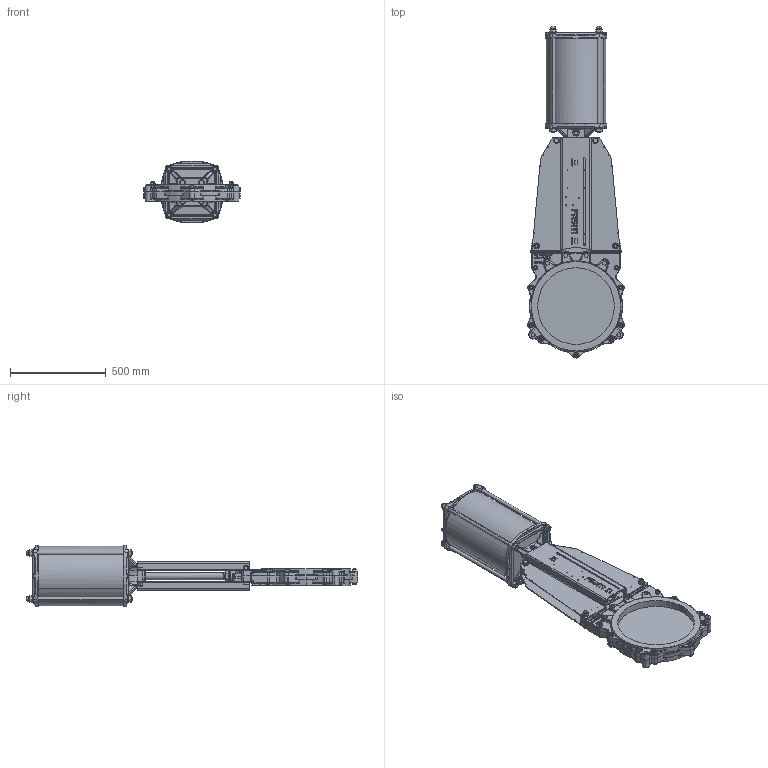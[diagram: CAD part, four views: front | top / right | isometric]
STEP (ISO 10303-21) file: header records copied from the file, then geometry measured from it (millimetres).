
FILE_DESCRIPTION (( 'STEP AP214' ), '1' );
FILE_NAME ('VSC DN 0400 Zyl.-Reihe 2.STEP', '2015-09-23T11:14:18', ( 'admin' ), ( 'Hewlett-Packard Company' ), 'SwSTEP 2.0', 'SolidWorks 2013', '' );
FILE_SCHEMA (( 'AUTOMOTIVE_DESIGN' ));
Length unit declared in the file: millimetre
Products named in the file (1): VSC DN 0400 Zyl.-Reihe 2
Bounding box: 504 x 1733.5 x 320 mm (x, y, z)
Volume: 22380425.8 mm3; surface area: 3789646 mm2
Topology: 87 solids, 91 shells, 4215 faces, 9979 edges, 5885 vertices
Faces by surface type: plane 1273, cylinder 1102, cone 799, bspline 729, torus 242, sphere 70
Entity records: 195004 total; most frequent: CARTESIAN_POINT 56810, ORIENTED_EDGE 19594, DIRECTION 18154, EDGE_CURVE 9797, AXIS2_PLACEMENT_3D 7328, VERTEX_POINT 5869, EDGE_LOOP 4596, UNCERTAINTY_MEASURE_WITH_UNIT 4302
